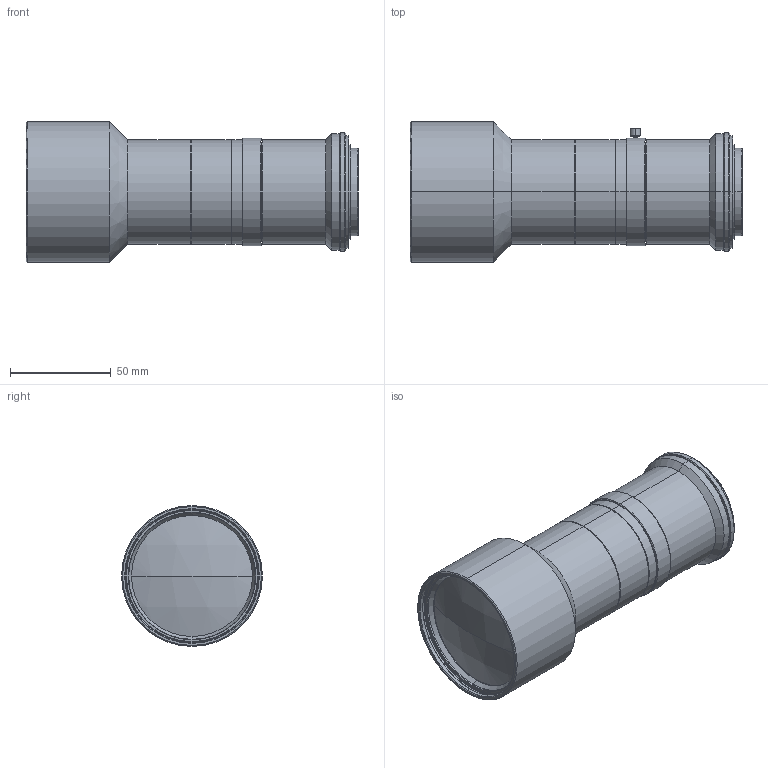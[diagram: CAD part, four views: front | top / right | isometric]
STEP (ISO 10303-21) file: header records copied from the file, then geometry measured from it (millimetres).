
FILE_DESCRIPTION (( 'STEP AP203' ), '1' );
FILE_NAME ('VS-LTC05-130_FS.STEP', '2018-06-14T04:18:50', ( '' ), ( '' ), 'SwSTEP 2.0', 'SolidWorks 2018', '' );
FILE_SCHEMA (( 'CONFIG_CONTROL_DESIGN' ));
Length unit declared in the file: millimetre
Products named in the file (1): VS-LTC05-130_FS
Bounding box: 165.1 x 70 x 70 mm (x, y, z)
Volume: 375625.1 mm3; surface area: 49218.3 mm2
Topology: 1 solids, 1 shells, 158 faces, 318 edges, 186 vertices
Faces by surface type: cone 80, cylinder 50, plane 24, sphere 4
Entity records: 4209 total; most frequent: DIRECTION 820, CARTESIAN_POINT 695, ORIENTED_EDGE 636, AXIS2_PLACEMENT_3D 345, EDGE_CURVE 318, VERTEX_POINT 186, CIRCLE 186, EDGE_LOOP 182
